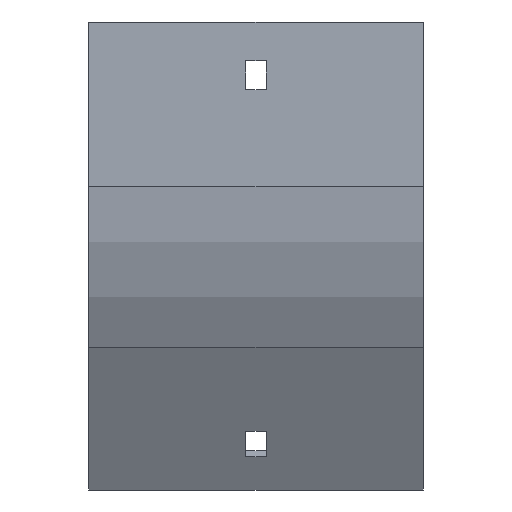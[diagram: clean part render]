
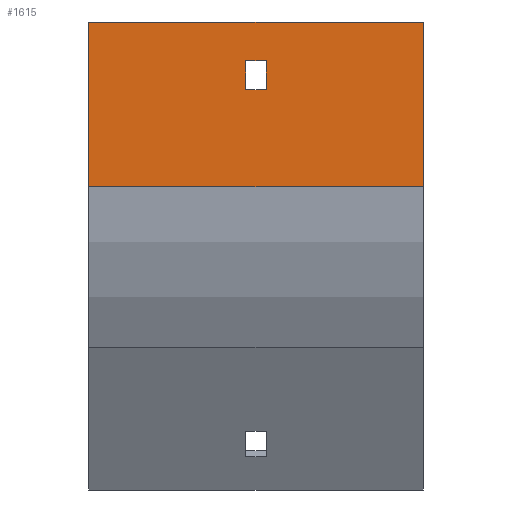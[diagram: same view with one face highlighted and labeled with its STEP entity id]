
A CAD part, front view. The second image highlights one B-rep face of the part: STEP entity #1615.
In plain terms, the highlighted planar face has unit normal (0, -1, 0).
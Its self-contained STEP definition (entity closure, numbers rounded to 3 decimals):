
#20 = LINE ( 'NONE', #615, #719 ) ;
#28 = LINE ( 'NONE', #1051, #529 ) ;
#35 = CARTESIAN_POINT ( 'NONE',  ( 52., -79., -51.168 ) ) ;
#38 = VECTOR ( 'NONE', #1088, 1000. ) ;
#40 = CARTESIAN_POINT ( 'NONE',  ( 3.25, -79., -21. ) ) ;
#41 = ORIENTED_EDGE ( 'NONE', *, *, #799, .T. ) ;
#43 = EDGE_CURVE ( 'NONE', #1897, #1008, #1236, .T. ) ;
#44 = LINE ( 'NONE', #768, #38 ) ;
#48 = CARTESIAN_POINT ( 'NONE',  ( -3.25, -79., -21. ) ) ;
#88 = ORIENTED_EDGE ( 'NONE', *, *, #1586, .T. ) ;
#93 = EDGE_CURVE ( 'NONE', #1079, #1901, #348, .T. ) ;
#147 = DIRECTION ( 'NONE',  ( -1., 0., 0. ) ) ;
#151 = DIRECTION ( 'NONE',  ( 1., 0., 0. ) ) ;
#202 = EDGE_CURVE ( 'NONE', #1238, #1243, #1582, .T. ) ;
#261 = VECTOR ( 'NONE', #1546, 1000. ) ;
#262 = DIRECTION ( 'NONE',  ( 0., 0., -1. ) ) ;
#300 = VERTEX_POINT ( 'NONE', #554 ) ;
#310 = DIRECTION ( 'NONE',  ( -1., 0., 0. ) ) ;
#324 = PLANE ( 'NONE',  #1439 ) ;
#348 = LINE ( 'NONE', #1417, #261 ) ;
#382 = VECTOR ( 'NONE', #151, 1000. ) ;
#412 = CARTESIAN_POINT ( 'NONE',  ( 52., -79., 0. ) ) ;
#454 = LINE ( 'NONE', #1520, #382 ) ;
#529 = VECTOR ( 'NONE', #147, 1000. ) ;
#554 = CARTESIAN_POINT ( 'NONE',  ( -52., -79., 0. ) ) ;
#588 = EDGE_LOOP ( 'NONE', ( #1074, #1834, #1413, #901 ) ) ;
#597 = EDGE_LOOP ( 'NONE', ( #88, #1584, #1791, #41 ) ) ;
#615 = CARTESIAN_POINT ( 'NONE',  ( 52., -79., 0. ) ) ;
#617 = DIRECTION ( 'NONE',  ( 0., 0., 1. ) ) ;
#629 = FACE_BOUND ( 'NONE', #588, .T. ) ;
#674 = VECTOR ( 'NONE', #1400, 1000. ) ;
#719 = VECTOR ( 'NONE', #310, 1000. ) ;
#768 = CARTESIAN_POINT ( 'NONE',  ( -52., -79., -51.168 ) ) ;
#786 = VERTEX_POINT ( 'NONE', #1824 ) ;
#799 = EDGE_CURVE ( 'NONE', #1079, #300, #20, .T. ) ;
#813 = VECTOR ( 'NONE', #900, 1000. ) ;
#830 = EDGE_CURVE ( 'NONE', #1008, #1238, #454, .T. ) ;
#900 = DIRECTION ( 'NONE',  ( -1., 0., 0. ) ) ;
#901 = ORIENTED_EDGE ( 'NONE', *, *, #202, .T. ) ;
#912 = DIRECTION ( 'NONE',  ( 0., 1., 0. ) ) ;
#1008 = VERTEX_POINT ( 'NONE', #1160 ) ;
#1048 = VECTOR ( 'NONE', #262, 1000. ) ;
#1051 = CARTESIAN_POINT ( 'NONE',  ( -3.25, -79., -21. ) ) ;
#1066 = FACE_OUTER_BOUND ( 'NONE', #597, .T. ) ;
#1074 = ORIENTED_EDGE ( 'NONE', *, *, #1123, .T. ) ;
#1079 = VERTEX_POINT ( 'NONE', #412 ) ;
#1088 = DIRECTION ( 'NONE',  ( 0., 0., -1. ) ) ;
#1101 = CARTESIAN_POINT ( 'NONE',  ( 3.25, -79., -12. ) ) ;
#1123 = EDGE_CURVE ( 'NONE', #1243, #1897, #28, .T. ) ;
#1160 = CARTESIAN_POINT ( 'NONE',  ( -3.25, -79., -12. ) ) ;
#1232 = CARTESIAN_POINT ( 'NONE',  ( 52., -79., -51.168 ) ) ;
#1236 = LINE ( 'NONE', #48, #674 ) ;
#1238 = VERTEX_POINT ( 'NONE', #1101 ) ;
#1243 = VERTEX_POINT ( 'NONE', #40 ) ;
#1400 = DIRECTION ( 'NONE',  ( 0., 0., 1. ) ) ;
#1413 = ORIENTED_EDGE ( 'NONE', *, *, #830, .T. ) ;
#1417 = CARTESIAN_POINT ( 'NONE',  ( 52., -79., -51.168 ) ) ;
#1439 = AXIS2_PLACEMENT_3D ( 'NONE', #1232, #912, #617 ) ;
#1520 = CARTESIAN_POINT ( 'NONE',  ( -3.25, -79., -12. ) ) ;
#1532 = LINE ( 'NONE', #35, #813 ) ;
#1546 = DIRECTION ( 'NONE',  ( 0., 0., -1. ) ) ;
#1556 = EDGE_CURVE ( 'NONE', #1901, #786, #1532, .T. ) ;
#1582 = LINE ( 'NONE', #1893, #1048 ) ;
#1584 = ORIENTED_EDGE ( 'NONE', *, *, #1556, .F. ) ;
#1586 = EDGE_CURVE ( 'NONE', #300, #786, #44, .T. ) ;
#1615 = ADVANCED_FACE ( 'NONE', ( #629, #1066 ), #324, .F. ) ;
#1668 = CARTESIAN_POINT ( 'NONE',  ( 52., -79., -51.168 ) ) ;
#1791 = ORIENTED_EDGE ( 'NONE', *, *, #93, .F. ) ;
#1823 = CARTESIAN_POINT ( 'NONE',  ( -3.25, -79., -21. ) ) ;
#1824 = CARTESIAN_POINT ( 'NONE',  ( -52., -79., -51.168 ) ) ;
#1834 = ORIENTED_EDGE ( 'NONE', *, *, #43, .T. ) ;
#1893 = CARTESIAN_POINT ( 'NONE',  ( 3.25, -79., -21. ) ) ;
#1897 = VERTEX_POINT ( 'NONE', #1823 ) ;
#1901 = VERTEX_POINT ( 'NONE', #1668 ) ;
